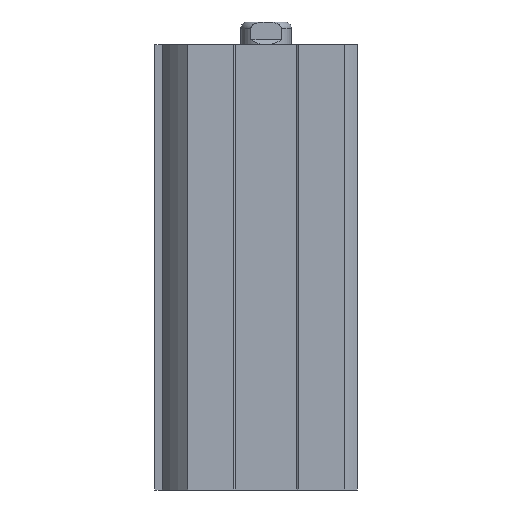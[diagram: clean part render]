
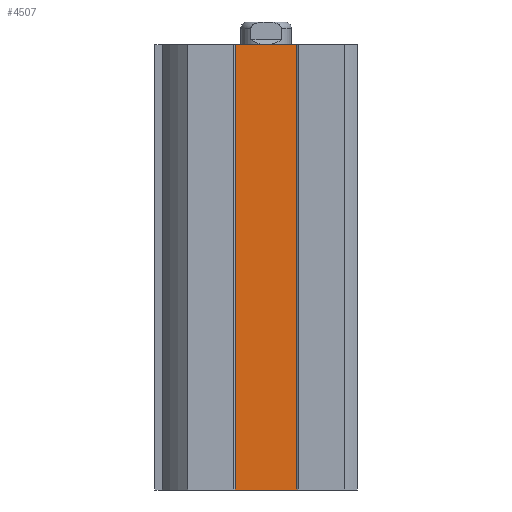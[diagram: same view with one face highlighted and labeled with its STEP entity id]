
A CAD part, left-side view. The second image highlights one B-rep face of the part: STEP entity #4507.
In plain terms, the highlighted planar face has unit normal (-1, 0, 0).
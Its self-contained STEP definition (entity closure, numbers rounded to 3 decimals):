
#111=PLANE('',#4781);
#223=LINE('',#6416,#449);
#224=LINE('',#6418,#450);
#225=LINE('',#6420,#451);
#226=LINE('',#6422,#452);
#449=VECTOR('',#5294,1000.);
#450=VECTOR('',#5297,1000.);
#451=VECTOR('',#5298,1000.);
#452=VECTOR('',#5299,1000.);
#740=ORIENTED_EDGE('',*,*,#1596,.T.);
#741=ORIENTED_EDGE('',*,*,#1595,.F.);
#742=ORIENTED_EDGE('',*,*,#1597,.T.);
#743=ORIENTED_EDGE('',*,*,#1598,.T.);
#1595=EDGE_CURVE('',#2028,#2027,#223,.T.);
#1596=EDGE_CURVE('',#2029,#2027,#224,.T.);
#1597=EDGE_CURVE('',#2028,#2030,#225,.T.);
#1598=EDGE_CURVE('',#2030,#2029,#226,.T.);
#2027=VERTEX_POINT('',#6413);
#2028=VERTEX_POINT('',#6415);
#2029=VERTEX_POINT('',#6419);
#2030=VERTEX_POINT('',#6421);
#2548=EDGE_LOOP('',(#740,#741,#742,#743));
#2867=FACE_BOUND('',#2548,.T.);
#4507=ADVANCED_FACE('',(#2867),#111,.T.);
#4781=AXIS2_PLACEMENT_3D('',#6417,#5295,#5296);
#5294=DIRECTION('',(0.,0.,1.));
#5295=DIRECTION('',(-1.,0.,0.));
#5296=DIRECTION('',(0.,0.,1.));
#5297=DIRECTION('',(0.,1.,0.));
#5298=DIRECTION('',(0.,-1.,0.));
#5299=DIRECTION('',(0.,0.,1.));
#6413=CARTESIAN_POINT('',(-12.3,6.124,88.));
#6415=CARTESIAN_POINT('',(-12.3,6.124,0.));
#6416=CARTESIAN_POINT('',(-12.3,6.124,0.));
#6417=CARTESIAN_POINT('',(-12.3,-6.124,0.));
#6418=CARTESIAN_POINT('',(-12.3,-6.124,88.));
#6419=CARTESIAN_POINT('',(-12.3,-6.124,88.));
#6420=CARTESIAN_POINT('',(-12.3,6.124,0.));
#6421=CARTESIAN_POINT('',(-12.3,-6.124,0.));
#6422=CARTESIAN_POINT('',(-12.3,-6.124,0.));
